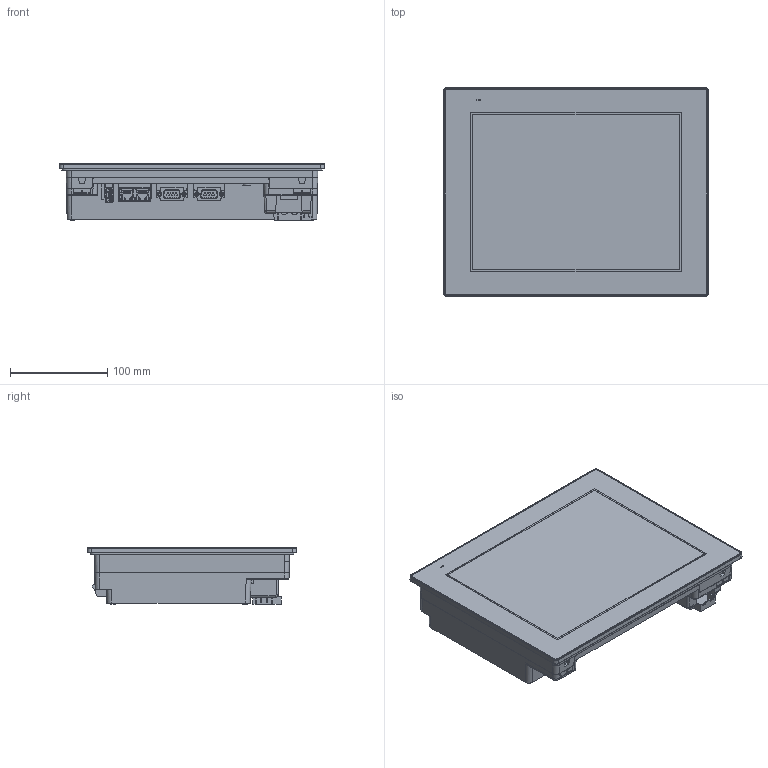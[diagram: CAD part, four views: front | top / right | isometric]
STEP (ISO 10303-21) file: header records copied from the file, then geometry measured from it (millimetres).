
FILE_DESCRIPTION (( 'STEP AP203' ), '1' );
FILE_NAME ('PFXGP6500TAD_3D-simpl.STEP', '2025-02-06T13:59:41', ( '' ), ( '' ), 'SwSTEP 2.0', 'SolidWorks 2017', '' );
FILE_SCHEMA (( 'CONFIG_CONTROL_DESIGN' ));
Length unit declared in the file: millimetre
Products named in the file (5): PFXGP6500TAD_3D-simpl; PFXGP6500TAD_3D-simpl_3; PFXGP6500TAD_3D-simpl_4; PFXGP6500TAD_3D-simpl_2
Assembly tree (4 placements, depth 2):
  PFXGP6500TAD_3D-simpl
    PFXGP6500TAD_3D-simpl_2
    PFXGP6500TAD_3D-simpl_4
    PFXGP6500TAD_3D-simpl
    PFXGP6500TAD_3D-simpl_3
Bounding box: 272.46 x 214.46 x 58.51 mm (x, y, z)
Volume: 2573266.9 mm3; surface area: 201824.8 mm2
Topology: 4 solids, 11 shells, 2312 faces, 6377 edges, 4154 vertices
Faces by surface type: plane 1555, cylinder 477, bspline 166, cone 90, torus 24
Entity records: 88445 total; most frequent: CARTESIAN_POINT 32683, ORIENTED_EDGE 12680, DIRECTION 9416, EDGE_CURVE 6340, LINE 4576, VECTOR 4576, VERTEX_POINT 4154, EDGE_LOOP 2458
